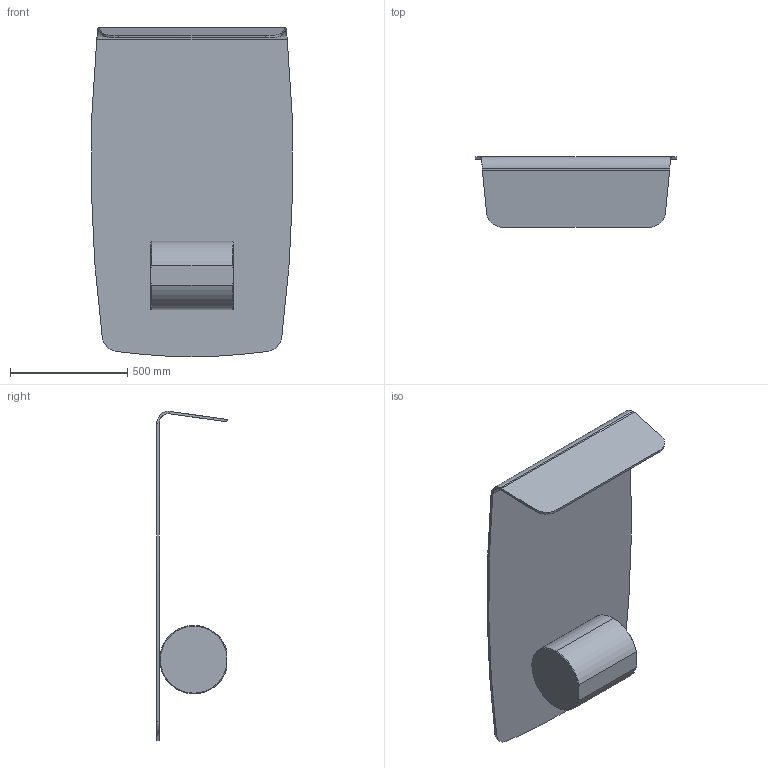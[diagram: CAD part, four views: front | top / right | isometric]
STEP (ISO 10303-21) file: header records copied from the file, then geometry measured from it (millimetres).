
FILE_DESCRIPTION (( 'STEP AP203' ), '1' );
FILE_NAME ('TO81G_Tor Low_140x86x30.STEP', '2024-08-02T11:47:32', ( '' ), ( '' ), 'SwSTEP 2.0', 'SolidWorks 2022', '' );
FILE_SCHEMA (( 'CONFIG_CONTROL_DESIGN' ));
Length unit declared in the file: millimetre
Products named in the file (3): TO81G_Tor Low_140x86x30; TOB000Mxx-00-TOR LOW BASE MARMO; C83xxx-00-PIANO CRI.RICOTTO TEMP.130x90 cm SAG.
Assembly tree (2 placements, depth 2):
  TO81G_Tor Low_140x86x30
    C83xxx-00-PIANO CRI.RICOTTO TEMP.130x90 cm SAG.
    TOB000Mxx-00-TOR LOW BASE MARMO
Bounding box: 858.02 x 300 x 1402.48 mm (x, y, z)
Volume: 36878959.1 mm3; surface area: 3226163.5 mm2
Topology: 2 solids, 2 shells, 33 faces, 75 edges, 46 vertices
Faces by surface type: cylinder 15, plane 8, cone 6, bspline 4
Entity records: 1362 total; most frequent: CARTESIAN_POINT 353, DIRECTION 151, ORIENTED_EDGE 150, EDGE_CURVE 75, AXIS2_PLACEMENT_3D 62, VERTEX_POINT 46, FACE_OUTER_BOUND 33, EDGE_LOOP 33
